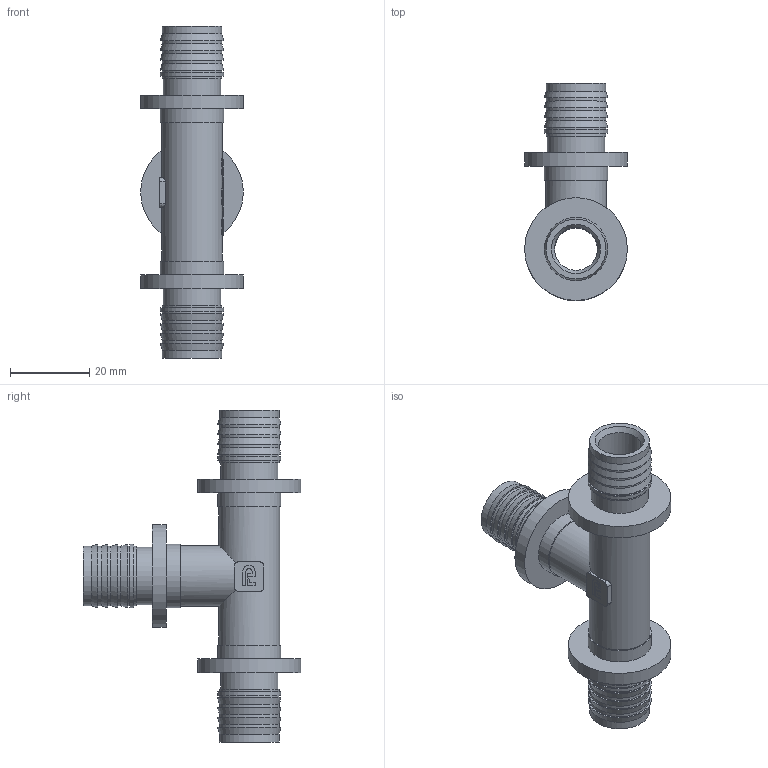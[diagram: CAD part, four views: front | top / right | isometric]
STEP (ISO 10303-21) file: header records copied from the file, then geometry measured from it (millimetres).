
FILE_DESCRIPTION(/* description */ (''),/* implementation_level */ '2;1');
FILE_NAME(/* name */ 'C:\Users\Doom\Desktop\Фадотех\Натяжка\FD-SFT02NEW 20 07.05.2020\FD-SFT02NEW 20 07.05.2020.stp',/* time_stamp */ '2022-07-24T13:54:03+03:00',/* author */ ('Doom'),/* organization */ (''),/* preprocessor_version */ 'ST-DEVELOPER v18',/* originating_system */ 'Autodesk Inventor 2020',/* authorisation */ '');
FILE_SCHEMA (('AUTOMOTIVE_DESIGN { 1 0 10303 214 3 1 1 }','FEATURE_BASED_PROCESS_PLANNING'));
Length unit declared in the file: millimetre
Products named in the file (1): FD-SFT02NEW 20 07.05.2020
Bounding box: 26 x 55 x 84 mm (x, y, z)
Volume: 14625.4 mm3; surface area: 12861.9 mm2
Topology: 1 solids, 1 shells, 234 faces, 635 edges, 446 vertices
Faces by surface type: bspline 101, plane 72, cylinder 46, cone 15
Full cylindrical faces by diameter (mm): 10.8 x2, 14.5 x3, 15.1 x18, 15.4 x2, 16 x6, 26 x3
Entity records: 9815 total; most frequent: CARTESIAN_POINT 4298, ORIENTED_EDGE 1270, DIRECTION 886, EDGE_CURVE 635, VERTEX_POINT 446, AXIS2_PLACEMENT_3D 324, EDGE_LOOP 281, LINE 238
